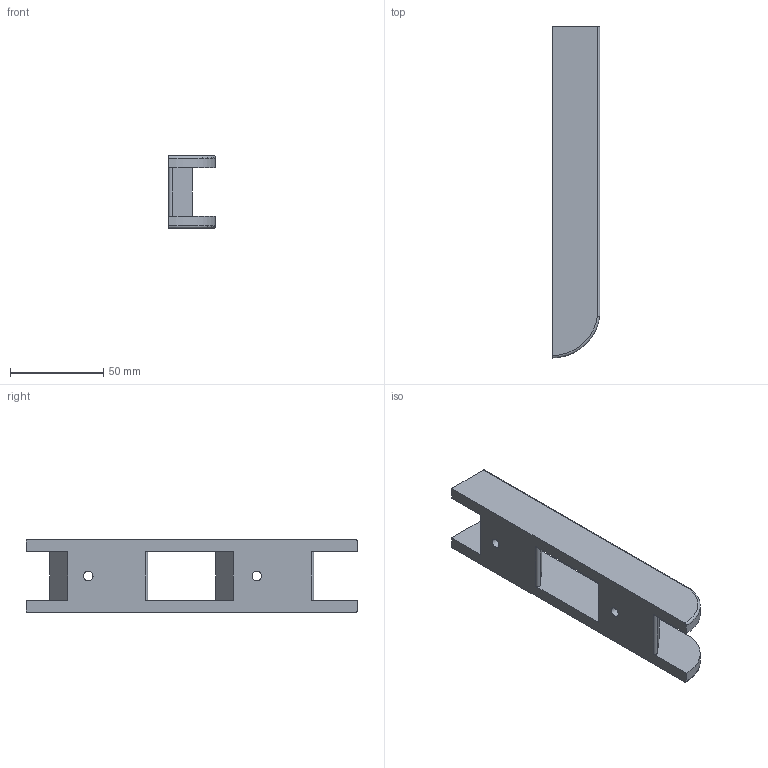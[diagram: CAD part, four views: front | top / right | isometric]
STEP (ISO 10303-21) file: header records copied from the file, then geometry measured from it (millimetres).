
FILE_DESCRIPTION(/* description */ ('STEP AP242','CAx-IF Rec.Pracs.---Representation and Presentation of Product Manufacturing Information (PMI)---4.0---2014-10-13','CAx-IF Rec.Pracs.---3D Tessellated Geometry---0.4---2014-09-14','2;1'),/* implementation_level */ '2;1');
FILE_NAME(/* name */ '677e1426248f357686529219',/* time_stamp */ '2025-01-08T05:59:02Z',/* author */ (''),/* organization */ (''),/* preprocessor_version */ 'ST-DEVELOPER v20',/* originating_system */ 'ONSHAPE BY PTC INC, 1.191',/* authorisation */ ' ');
FILE_SCHEMA (('AP242_MANAGED_MODEL_BASED_3D_ENGINEERING_MIM_LF { 1 0 10303 442 1 1 4 }'));
Length unit declared in the file: metre
Products named in the file (1): Wall Bracket-7
Bounding box: 25.4 x 177.8 x 38.74 mm (x, y, z)
Volume: 83390.6 mm3; surface area: 26642.9 mm2
Topology: 1 solids, 1 shells, 33 faces, 88 edges, 58 vertices
Faces by surface type: plane 17, cylinder 12, torus 2, cone 2
Full cylindrical faces by diameter (mm): 5.08 x2, 12.7 x2
Entity records: 1024 total; most frequent: CARTESIAN_POINT 178, DIRECTION 174, ORIENTED_EDGE 160, EDGE_CURVE 80, AXIS2_PLACEMENT_3D 62, VERTEX_POINT 56, LINE 50, VECTOR 50
